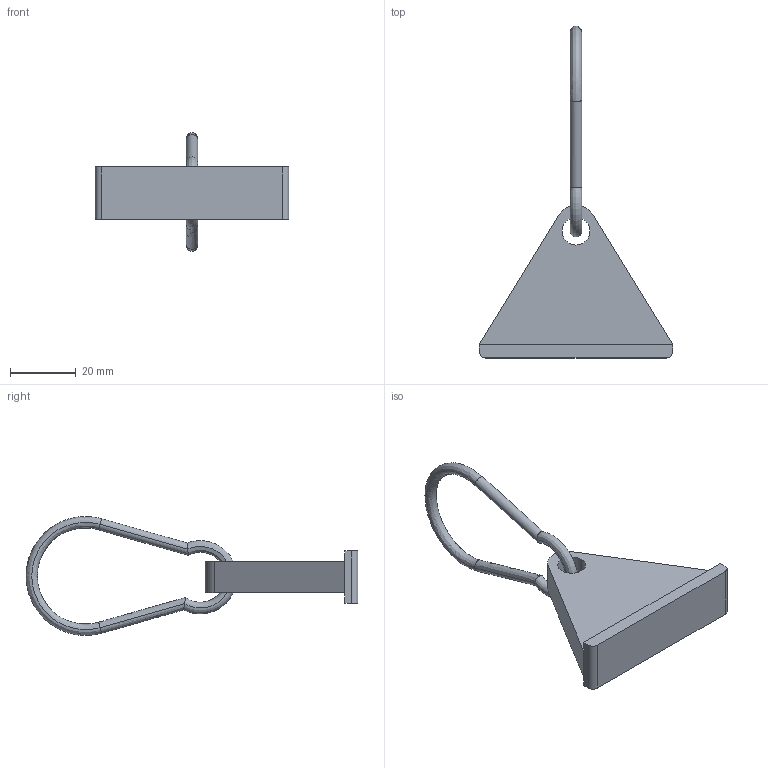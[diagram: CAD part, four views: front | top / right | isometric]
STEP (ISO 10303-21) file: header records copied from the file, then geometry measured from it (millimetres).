
FILE_DESCRIPTION (( 'STEP AP203' ), '1' );
FILE_NAME ('219-CE-MH-10.STEP', '2015-07-09T09:29:29', ( '' ), ( '' ), 'SwSTEP 2.0', 'SolidWorks 2013', '' );
FILE_SCHEMA (( 'CONFIG_CONTROL_DESIGN' ));
Length unit declared in the file: millimetre
Products named in the file (1): 219-CE-MH-10
Bounding box: 59 x 101.1 x 36.21 mm (x, y, z)
Volume: 17931.9 mm3; surface area: 7514.1 mm2
Topology: 2 solids, 2 shells, 26 faces, 58 edges, 34 vertices
Faces by surface type: plane 11, bspline 10, cylinder 5
Entity records: 1731 total; most frequent: CARTESIAN_POINT 1143, ORIENTED_EDGE 116, DIRECTION 88, EDGE_CURVE 58, VERTEX_POINT 34, LINE 30, VECTOR 30, AXIS2_PLACEMENT_3D 29
